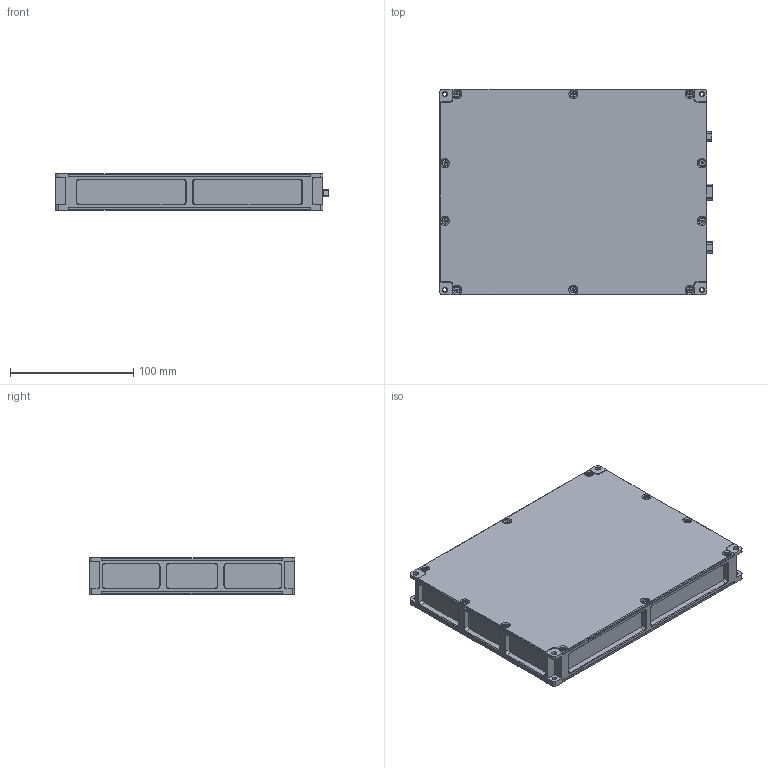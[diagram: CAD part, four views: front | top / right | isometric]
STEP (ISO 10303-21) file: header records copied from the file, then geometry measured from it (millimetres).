
FILE_DESCRIPTION (( 'STEP AP203' ), '1' );
FILE_NAME ('E80.B3K-I.STEP', '2025-07-15T05:42:12', ( 'China' ), ( 'Home' ), 'SwSTEP 2.0', 'SolidWorks 2016', '' );
FILE_SCHEMA (( 'CONFIG_CONTROL_DESIGN' ));
Length unit declared in the file: millimetre
Products named in the file (1): E80.B3K-I
Bounding box: 221.3 x 167 x 30 mm (x, y, z)
Surface area: 175784 mm2 (no closed solid volume)
Topology: 0 solids, 37 shells, 818 faces, 5287 edges, 4366 vertices
Faces by surface type: plane 479, cylinder 217, cone 76, bspline 46
Entity records: 58999 total; most frequent: CARTESIAN_POINT 21800, ORIENTED_EDGE 7097, DIRECTION 6448, EDGE_CURVE 5287, VERTEX_POINT 4366, LINE 3622, VECTOR 3622, AXIS2_PLACEMENT_3D 1413
